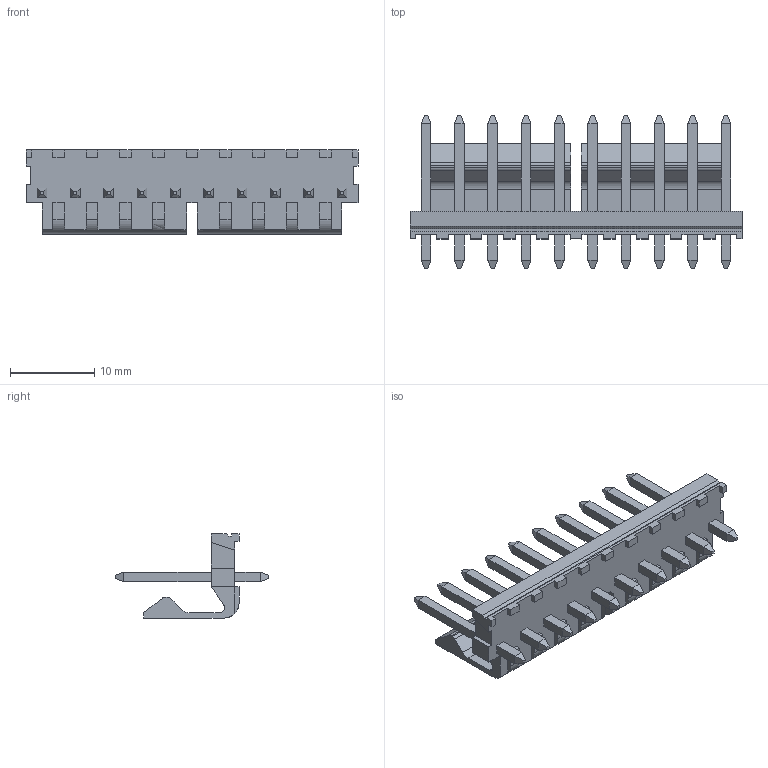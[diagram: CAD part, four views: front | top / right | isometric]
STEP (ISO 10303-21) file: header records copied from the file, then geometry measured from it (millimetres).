
FILE_DESCRIPTION((''),'2;1');
FILE_NAME('417910857','2014-01-21T',('me'),(''),'PRO/ENGINEER BY PARAMETRIC TECHNOLOGY CORPORATION, 2011490','PRO/ENGINEER BY PARAMETRIC TECHNOLOGY CORPORATION, 2011490','');
FILE_SCHEMA(('CONFIG_CONTROL_DESIGN'));
Length unit declared in the file: inch
Products named in the file (1): 417910857
Bounding box: 39.47 x 18.29 x 10.01 mm (x, y, z)
Volume: 1492.2 mm3; surface area: 2455.3 mm2
Topology: 1 solids, 1 shells, 308 faces, 792 edges, 506 vertices
Faces by surface type: plane 298, cylinder 10
Entity records: 9125 total; most frequent: CARTESIAN_POINT 1587, ORIENTED_EDGE 1544, DIRECTION 1468, EDGE_CURVE 772, VECTOR 734, LINE 734, VERTEX_POINT 486, AXIS2_PLACEMENT_3D 367
